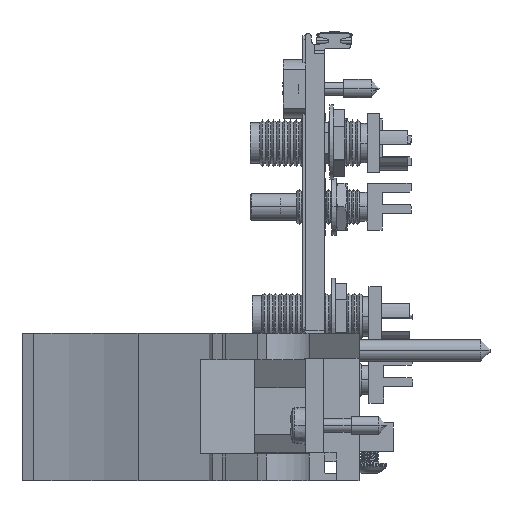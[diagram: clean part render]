
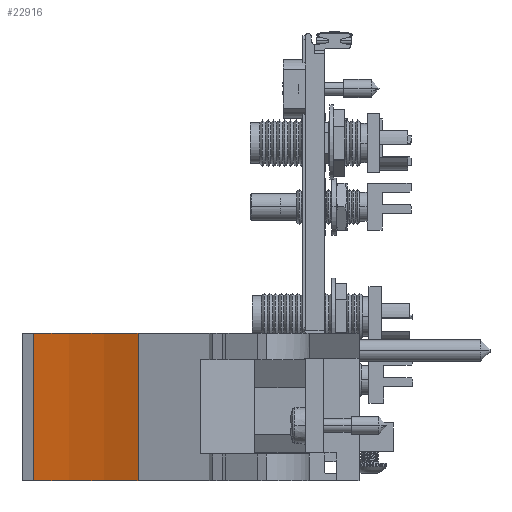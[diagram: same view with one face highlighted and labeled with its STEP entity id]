
A CAD part, front view. The second image highlights one B-rep face of the part: STEP entity #22916.
In plain terms, the highlighted cylindrical face has radius 51.46 mm (diameter 102.919 mm), a partial arc.
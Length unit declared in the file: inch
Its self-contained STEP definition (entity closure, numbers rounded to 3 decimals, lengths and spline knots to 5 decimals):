
#1687=CARTESIAN_POINT('',(-0.15633,-2.80199,
0.63398));
#1688=DIRECTION('',(0.,0.,-1.));
#1689=DIRECTION('',(0.16,0.987,0.));
#1690=AXIS2_PLACEMENT_3D('',#1687,#1688,#1689);
#1852=CARTESIAN_POINT('',(-0.15633,-2.80199,
-0.15402));
#1853=DIRECTION('',(0.,0.,1.));
#1854=DIRECTION('',(0.435,0.9,0.));
#1855=AXIS2_PLACEMENT_3D('',#1852,#1853,#1854);
#2526=DIRECTION('',(0.,0.,-1.));
#2527=VECTOR('',#2526,0.788);
#2528=CARTESIAN_POINT('',(0.167,-0.80199,0.63398));
#2529=LINE('',#2528,#2527);
#2530=DIRECTION('',(0.,0.,1.));
#2531=VECTOR('',#2530,0.788);
#2532=CARTESIAN_POINT('',(0.72497,-0.97776,
-0.15402));
#2533=LINE('',#2532,#2531);
#18698=CARTESIAN_POINT('',(0.167,-0.80199,-0.15402));
#18699=VERTEX_POINT('',#18698);
#18700=CARTESIAN_POINT('',(0.72497,-0.97776,
-0.15402));
#18701=VERTEX_POINT('',#18700);
#18770=CARTESIAN_POINT('',(0.72497,-0.97776,
0.63398));
#18771=VERTEX_POINT('',#18770);
#18772=CARTESIAN_POINT('',(0.167,-0.80199,0.63398));
#18773=VERTEX_POINT('',#18772);
#22904=CARTESIAN_POINT('',(-0.15633,-2.80199,
0.63398));
#22905=DIRECTION('',(0.,0.,1.));
#22906=DIRECTION('',(0.,1.,0.));
#22907=AXIS2_PLACEMENT_3D('',#22904,#22905,#22906);
#22908=CYLINDRICAL_SURFACE('',#22907,2.02597);
#22909=ORIENTED_EDGE('',*,*,#22060,.T.);
#22911=ORIENTED_EDGE('',*,*,#22910,.F.);
#22912=ORIENTED_EDGE('',*,*,#21947,.T.);
#22913=ORIENTED_EDGE('',*,*,#22890,.F.);
#22914=EDGE_LOOP('',(#22909,#22911,#22912,#22913));
#22915=FACE_OUTER_BOUND('',#22914,.F.);
#22916=ADVANCED_FACE('',(#22915),#22908,.F.);
#1691=CIRCLE('',#1690,2.02597);
#1856=CIRCLE('',#1855,2.02597);
#21947=EDGE_CURVE('',#18773,#18771,#1691,.T.);
#22060=EDGE_CURVE('',#18701,#18699,#1856,.T.);
#22890=EDGE_CURVE('',#18701,#18771,#2533,.T.);
#22910=EDGE_CURVE('',#18773,#18699,#2529,.T.);
